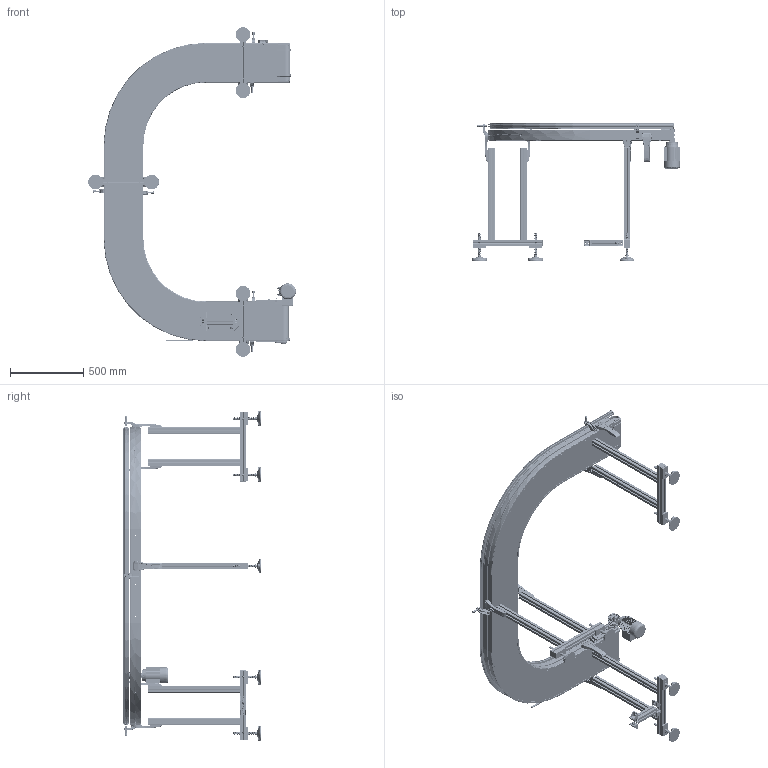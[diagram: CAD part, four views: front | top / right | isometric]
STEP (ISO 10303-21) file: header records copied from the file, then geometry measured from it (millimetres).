
FILE_DESCRIPTION (( 'STEP AP203' ), '1' );
FILE_NAME ('NASTRO_3020.step', '2026-04-24T06:04:06', ( 'Utente Windows' ), ( '' ), 'SwSTEP 2.0', 'SolidWorks 2024', '' );
FILE_SCHEMA (( 'CONFIG_CONTROL_DESIGN' ));
Length unit declared in the file: millimetre
Products named in the file (58): 084.711.006_L2; 084.405.001; 084.301.000 VITI ALUSIC_084.301.003; VITI TE UNI 5739_M8x16 UNI 5739; CATENA_UDX; CURVA_3020_9_SX_Default<A macchina>; 3020.000.006; 2010.000.070; TELAIO_3020_9_7_Default<A macchina>; 084.802.008; 2010.000.068_L; 084.802.076_chiuso; 084.711.005; 084.402.005; NASTRO_3020; CHIAVETTE_A 5x5x50 UNI 6604-69; VITI TE UNI 5739_M6x16 UNI 5739; GRANI A PUNTA CONICA UNI 5927 INOX_M6x40 UNI 5927 INOX; 3020.000.005; 084.807.003_084.807.003<A macchina>; 084.802.077_chiuso; SPONDA_U_DX_Default<A macchina>; TRAVERSA_SINGOLA_Default<A macchina>; 084.711.006_L1; 084.711.007; 084.301.000 VITI ALUSIC1_084.301.003; TELAIO_3020_9_1_Default<A macchina>; GAMBE_3020_Default<A macchina>; 3020.006.002; 084.808.012; ANGOLARE_43; 084.807.014_084.807.002; RONDELLE FASCIA LARGA UNI 6593_6.4x24 UNI 6593; FLANGIA_GAMBA; 084.305.003-1; 084.802.017_084.802.017; VITI TSEI UNI 5933 INOX_0410UNI5933A2; 084.302.000 DADI ALUSIC 13x13_084.302.004; PIEDE; TELAIO_3020_9_9_Default<A macchina>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
Assembly tree (148 placements, depth 4):
  NASTRO_3020
    CATENA_UDX
    3020.009.130_DX
      084.807.003_084.807.003<A macchina>  x2
      084.802.017_084.802.017  x2
      084.301.000 VITI ALUSIC_084.301.003  x4
      084.302.000 DADI ALUSIC 13x13_084.302.004  x4
      3020.009.007
      VITI TSEI UNI 5933 INOX_0410UNI5933A2  x4
      CHIAVETTE_A 5x5x50 UNI 6604-69
      CHIAVETTE_A 5x5x30 UNI 6604-69  x3
      3020.000.005  x3
      RONDELLE FASCIA LARGA UNI 6593_6.4x24 UNI 6593
      VITI TE UNI 5739_M6x16 UNI 5739
      084.802.077_chiuso
      084.802.078_chiuso con cono
      084.808.012
      VITI TE UNI 5739_M8x16 UNI 5739
      084.802.062
      RONDELLE UNI 6592_8.4x17 UNI 6592
    CURVA_3020_9_SX_Default<A macchina>  x2
    3020.006.200
      084.802.008  x2
      084.301.000 VITI ALUSIC_084.301.003  x6
      084.302.000 DADI ALUSIC 13x13_084.302.004  x6
      3020.000.006
      3020.006.002
      084.807.014_084.807.002  x2
      084.802.076_chiuso  x2
      VITI TSEI UNI 5933 INOX_0410UNI5933A2  x4
      GRANI A PUNTA CONICA UNI 5927 INOX_M6x40 UNI 5927 INOX  x2
    084.307.006
    TELAIO_3020_9_1_Default<A macchina>
    TELAIO_3020_9_7_Default<A macchina>
    TELAIO_3020_9_9_Default<A macchina>
    084.712.002  x4
    084.711.006_PER CAVA 8 PERNO ALTO 1  x12
      084.711.006_L1
      084.711.006_L2
      084.711.007
      084.711.005
      084.711.010
      DADI ESAGONALI NORMALI UNI 5588_M6 UNI 5588
    SPONDA_U_DX_Default<A macchina>
    GAMBE_3020_Default<A macchina>  x3
    FLANGIA_GAMBA  x6
      084.302.000 DADI ALUSIC 13x13-1_084.302.004
      RONDELLE UNI 6592_8.4x17 UNI 6592
      084.301.000 VITI ALUSIC_084.301.003
      2010.000.068
        2010.000.068_L
        2010.000.069
        2010.000.070
    PIEDE  x6
      084.405.001
      084.402.005
      084.301.000 VITI ALUSIC1_084.301.003
    084.201.012-1  x12
    ANGOLARE_43  x4
      084.305.003-1
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Bounding box: 1420.52 x 946.15 x 2253.87 mm (x, y, z)
Volume: 39847388.3 mm3; surface area: 13485525.2 mm2
Topology: 392 solids, 396 shells, 20530 faces, 53383 edges, 33859 vertices
Faces by surface type: plane 8447, cylinder 7014, cone 1803, bspline 1724, torus 1334, sphere 208
Entity records: 236729 total; most frequent: CARTESIAN_POINT 73754, ORIENTED_EDGE 33408, DIRECTION 31211, EDGE_CURVE 16704, AXIS2_PLACEMENT_3D 10725, VERTEX_POINT 10667, LINE 9761, VECTOR 9761
